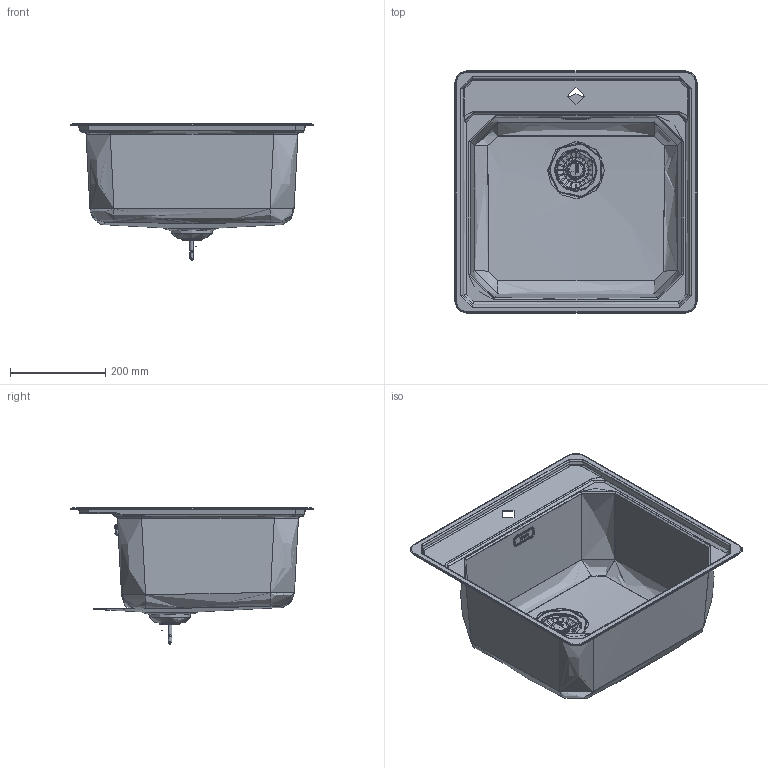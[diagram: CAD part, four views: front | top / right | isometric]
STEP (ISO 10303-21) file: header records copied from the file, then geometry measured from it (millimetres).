
FILE_DESCRIPTION(/* description */ (''),/* implementation_level */ '2;1');
FILE_NAME(/* name */ '3D001_Sinks_Bell_BCX-610-51',/* time_stamp */ '2024-02-01T11:14:10+01:00',/* author */ (''),/* organization */ (''),/* preprocessor_version */ 'ST-DEVELOPER v19.2',/* originating_system */ 'Rhino 8.3',/* authorisation */ '');
FILE_SCHEMA (('CONFIG_CONTROL_DESIGN'));
Length unit declared in the file: millimetre
Products named in the file (5): Document; TAPPO_WASTEKIT; Blocco 08; OVERFLOW; 20110516_IPT_000
Bounding box: 510 x 510 x 286.6 mm (x, y, z)
Volume: 407476.2 mm3; surface area: 1122721 mm2
Topology: 6 solids, 16 shells, 1575 faces, 4431 edges, 2851 vertices
Faces by surface type: plane 722, bspline 524, cylinder 329
Full cylindrical faces by diameter (mm): 3.242 x1, 4 x1, 4.5 x2, 5.85 x2, 6 x2, 6.2 x1, 8 x2, 11 x1, 12.6 x1, 13.743 x1, 25 x1, 31 x1, 35 x1, 47 x1, 84 x1, 91.25 x1
Entity records: 82549 total; most frequent: CARTESIAN_POINT 45597, ORIENTED_EDGE 8647, DIRECTION 5075, EDGE_CURVE 4409, AXIS2_PLACEMENT_3D 3063, VERTEX_POINT 2851, B_SPLINE_CURVE_WITH_KNOTS 2379, CIRCLE 1997
